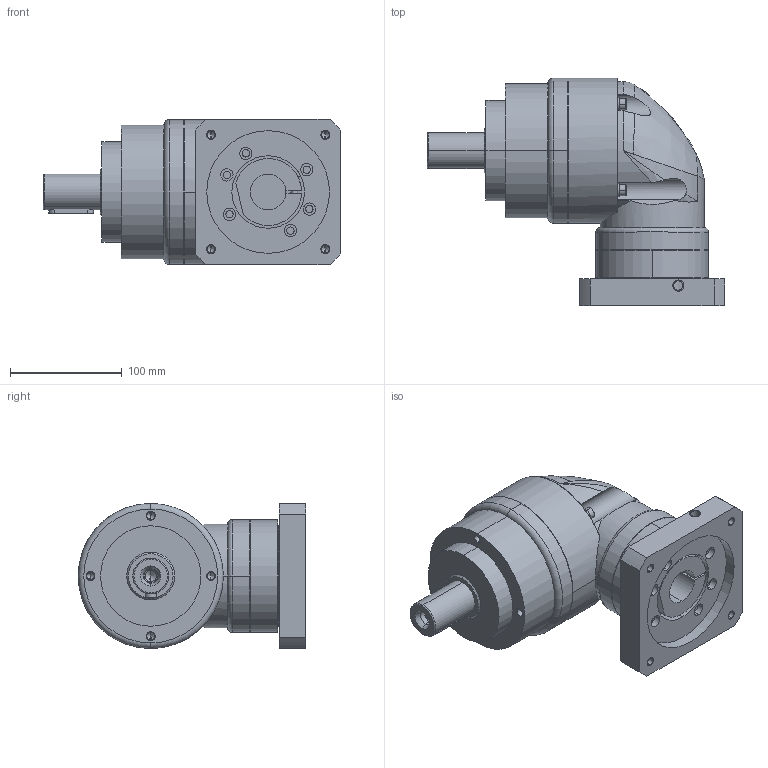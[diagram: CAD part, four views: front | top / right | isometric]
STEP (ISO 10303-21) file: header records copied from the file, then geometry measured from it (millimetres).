
FILE_DESCRIPTION((''),'2;1');
FILE_NAME('AER1201-P0403401402_ASM','2023-09-05T',('Administrator'),(''),'PRO/ENGINEER BY PARAMETRIC TECHNOLOGY CORPORATION, 2015240','PRO/ENGINEER BY PARAMETRIC TECHNOLOGY CORPORATION, 2015240','');
FILE_SCHEMA(('CONFIG_CONTROL_DESIGN'));
Length unit declared in the file: millimetre
Products named in the file (7): P1305400001_D; P1052400001_D; AE120; AB-INPUTSHAFT-4; AER1201_ASM; P0403401402-0012; AER1201-P0403401402_ASM
Assembly tree (6 placements, depth 3):
  AER1201-P0403401402_ASM
    AER1201_ASM
      P1305400001_D
      P1052400001_D
      AE120
      AB-INPUTSHAFT-4
    P0403401402-0012
Bounding box: 266.5 x 204 x 130 mm (x, y, z)
Volume: 2472749.9 mm3; surface area: 245947.6 mm2
Topology: 5 solids, 15 shells, 275 faces, 659 edges, 413 vertices
Faces by surface type: cylinder 136, plane 66, cone 42, bspline 18, torus 13
Entity records: 9158 total; most frequent: CARTESIAN_POINT 2544, DIRECTION 1464, ORIENTED_EDGE 1238, EDGE_CURVE 639, AXIS2_PLACEMENT_3D 618, VERTEX_POINT 413, CIRCLE 340, EDGE_LOOP 334
